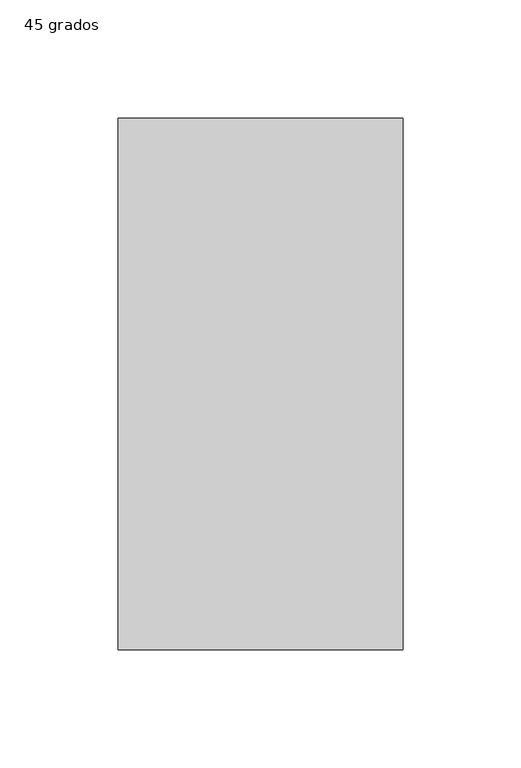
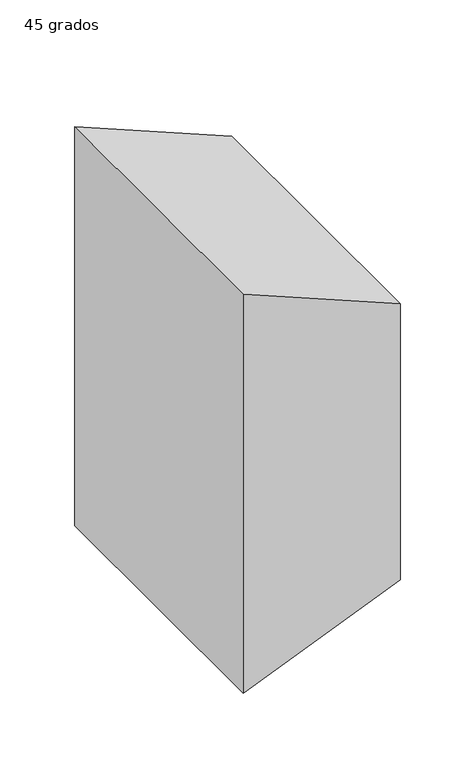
"""IFC4 building model written with IfcOpenShell, lengths in millimetres: duct fitting geometry, M_Transición rectangular - Ángulo : 45 grados."""

import ifcopenshell
import ifcopenshell.guid

model = None  # the IFC model being written
_history = None  # IfcOwnerHistory: only IFC2X3 demands one
_inside = {}  # id of a spatial element -> (the spatial element, [elements in it])
_under = {}  # id of a project, library or spatial element -> (it, [spatial elements below it])
_declared = {}  # id of a project -> (the project, [libraries it declares])
_typed = {}  # id of a type object -> (the type object, [elements of that type])
_made_of = {}  # id of a material, layer set ... -> (it, [elements and type objects made of it])


def new_model(schema):
    """Start an empty IFC model of exactly this schema.

    Asked for "IFC4X3", IfcOpenShell would pick the latest addendum, in which some entities
    have other attributes; the version numbers below select the first issue.
    IFC2X3 requires an IfcOwnerHistory on every rooted entity: one is made here for all.
    """
    global model, _history
    if schema == "IFC4X3":
        model = ifcopenshell.file(schema_version=(4, 3, 0, 0))
    else:
        model = ifcopenshell.file(schema=schema)
    _inside.clear()
    _under.clear()
    _declared.clear()
    _typed.clear()
    _made_of.clear()
    _history = None
    if model.schema == "IFC2X3":
        org = make("IfcOrganization", Name="unknown")
        user = make(
            "IfcPersonAndOrganization",
            ThePerson=make("IfcPerson", FamilyName="unknown"),
            TheOrganization=org,
        )
        app = make(
            "IfcApplication",
            ApplicationDeveloper=org,
            Version="unknown",
            ApplicationFullName="unknown",
            ApplicationIdentifier="unknown",
        )
        _history = make(
            "IfcOwnerHistory",
            OwningUser=user,
            OwningApplication=app,
            ChangeAction="ADDED",
            CreationDate=0,
        )
    return model


def make(cls, **values):
    """One entity of the class cls with the attributes given. An attribute that is None is left unset."""
    return model.create_entity(
        cls, **{name: value for name, value in values.items() if value is not None}
    )


def rooted(cls, **values):
    """An entity with a GlobalId (a new one), such as an element, a storey or a relation."""
    return make(cls, GlobalId=ifcopenshell.guid.new(), OwnerHistory=_history, **values)


def si_unit(unit_type, name, prefix=None):
    """IfcSIUnit, for example si_unit("LENGTHUNIT", "METRE", prefix="MILLI")."""
    return make("IfcSIUnit", UnitType=unit_type, Prefix=prefix, Name=name)


def assignment(units):
    """IfcUnitAssignment: the units of a project."""
    return None if units is None else make("IfcUnitAssignment", Units=units)


def point(xyz):
    """IfcCartesianPoint."""
    return None if xyz is None else make("IfcCartesianPoint", Coordinates=xyz)


def direction(xyz):
    """IfcDirection."""
    return None if xyz is None else make("IfcDirection", DirectionRatios=xyz)


def frame(location, z_axis=None, x_axis=None):
    """IfcAxis2Placement3D, a coordinate frame: its origin and axes. An axis left out is left unset."""
    return make(
        "IfcAxis2Placement3D",
        Location=point(location),
        Axis=direction(z_axis),
        RefDirection=direction(x_axis),
    )


def origin():
    """The frame at (0, 0, 0) with its axes left unset."""
    return frame((0.0, 0.0, 0.0))


def place(relative_to, where):
    """IfcLocalPlacement: puts the frame where relative to a parent placement (None: the world)."""
    return make(
        "IfcLocalPlacement", PlacementRelTo=relative_to, RelativePlacement=where
    )


def context(
    kind, dimensions, precision=None, world=None, true_north=None, identifier=None
):
    """IfcGeometricRepresentationContext, for example the 3D "Model" context."""
    return make(
        "IfcGeometricRepresentationContext",
        ContextIdentifier=identifier,
        ContextType=kind,
        CoordinateSpaceDimension=dimensions,
        Precision=precision,
        WorldCoordinateSystem=world,
        TrueNorth=true_north,
    )


def project(units=None, contexts=None):
    """IfcProject with its units and contexts."""
    return rooted(
        "IfcProject",
        Name="project",
        RepresentationContexts=contexts,
        UnitsInContext=assignment(units),
    )


def spatial(cls, under=None, at=None, **own):
    """A site, building, storey or space (cls), placed at a placement, below another one or the project."""
    s = rooted(cls, ObjectPlacement=at, **own)
    if under is not None:
        _under.setdefault(under.id(), (under, []))[1].append(s)
    return s


def polyline(points):
    """IfcPolyline through the points."""
    return make("IfcPolyline", Points=[point(p) for p in points])


def outline(outer, holes=None, kind="AREA"):
    """IfcArbitraryClosedProfileDef: a profile drawn as a closed curve; with holes, ...WithVoids."""
    if holes is None:
        return make("IfcArbitraryClosedProfileDef", ProfileType=kind, OuterCurve=outer)
    return make(
        "IfcArbitraryProfileDefWithVoids",
        ProfileType=kind,
        OuterCurve=outer,
        InnerCurves=holes,
    )


def extrude(swept, where, along, depth):
    """IfcExtrudedAreaSolid: the profile swept, set in the frame where, extruded along a direction by depth."""
    return make(
        "IfcExtrudedAreaSolid",
        SweptArea=swept,
        Position=where,
        ExtrudedDirection=direction(along),
        Depth=depth,
    )


def shape(context_of_items, identifier, shape_type, items):
    """IfcShapeRepresentation: the items that make up one representation, for example the "Body"."""
    return make(
        "IfcShapeRepresentation",
        ContextOfItems=context_of_items,
        RepresentationIdentifier=identifier,
        RepresentationType=shape_type,
        Items=items,
    )


def source(mapping_origin, context_of_items, identifier, shape_type, items):
    """IfcRepresentationMap: a shape defined once, which mapped items show again and again."""
    return make(
        "IfcRepresentationMap",
        MappingOrigin=mapping_origin,
        MappedRepresentation=shape(context_of_items, identifier, shape_type, items),
    )


def transform(
    local_origin,
    x_axis=None,
    y_axis=None,
    z_axis=None,
    scale=None,
    scale2=None,
    scale3=None,
    uniform=True,
):
    """IfcCartesianTransformationOperator3D, or its non-uniform kind. x_axis, y_axis, z_axis: its Axis1, 2, 3."""
    if uniform:
        return make(
            "IfcCartesianTransformationOperator3D",
            Axis1=direction(x_axis),
            Axis2=direction(y_axis),
            LocalOrigin=point(local_origin),
            Scale=scale,
            Axis3=direction(z_axis),
        )
    return make(
        "IfcCartesianTransformationOperator3DnonUniform",
        Axis1=direction(x_axis),
        Axis2=direction(y_axis),
        LocalOrigin=point(local_origin),
        Scale=scale,
        Axis3=direction(z_axis),
        Scale2=scale2,
        Scale3=scale3,
    )


def mapped(mapping_source, mapping_target):
    """IfcMappedItem: shows the shape of a source again, moved by a transform."""
    return make(
        "IfcMappedItem", MappingSource=mapping_source, MappingTarget=mapping_target
    )


def made_of(thing, what):
    """Note that an element or type object is made of a material, layer set ...; save() writes the relation."""
    if what is not None:
        _made_of.setdefault(what.id(), (what, []))[1].append(thing)
    return thing


def element(
    cls,
    number,
    at=None,
    inside=None,
    cuts=None,
    type_object=None,
    material=None,
    context=None,
    identifier="Body",
    shape_type=None,
    held_by="IfcProductDefinitionShape",
    body=None,
    shapes=None,
    **own,
):
    """One element of the class cls, such as IfcWall. Its Tag is "e" and its number.

    at: its placement. inside: the storey or other place that contains it. cuts: it is an
    opening in that element (IfcRelVoidsElement). A single representation is given by context,
    identifier, shape_type and body (its items); several are given by shapes. held_by: the class
    of the entity that holds the representations. save() writes the other relations.
    """
    e = rooted(cls, Tag="e%d" % number, ObjectPlacement=at, **own)
    if body is not None:
        shapes = [shape(context, identifier, shape_type, body)]
    if shapes is not None:
        e.Representation = make(held_by, Representations=shapes)
    if inside is not None:
        _inside.setdefault(inside.id(), (inside, []))[1].append(e)
    if cuts is not None:
        rooted(
            "IfcRelVoidsElement", RelatingBuildingElement=cuts, RelatedOpeningElement=e
        )
    if type_object is not None:
        _typed.setdefault(type_object.id(), (type_object, []))[1].append(e)
    return made_of(e, material)


def aggregate(whole, parts):
    """IfcRelAggregates: a whole, such as a stair, and the parts it consists of."""
    return rooted("IfcRelAggregates", RelatingObject=whole, RelatedObjects=parts)


def save(model, path):
    """Write the relations noted so far, then the file.

    IfcRelAggregates (storeys below a building ...), IfcRelContainedInSpatialStructure (elements
    in a storey), IfcRelDefinesByType, IfcRelAssociatesMaterial and IfcRelDeclares: one each for
    every whole, place, type object, material and project.
    """
    for whole, parts in _under.values():
        aggregate(whole, parts)
    for where, things in _inside.values():
        rooted(
            "IfcRelContainedInSpatialStructure",
            RelatedElements=things,
            RelatingStructure=where,
        )
    for kind, things in _typed.values():
        rooted("IfcRelDefinesByType", RelatedObjects=things, RelatingType=kind)
    for what, things in _made_of.values():
        rooted("IfcRelAssociatesMaterial", RelatedObjects=things, RelatingMaterial=what)
    for by, libraries in _declared.values():
        rooted("IfcRelDeclares", RelatingContext=by, RelatedDefinitions=libraries)
    model.write(path)


def duct_fitting_45_grados_1f0bbba1(model_context):
    return source(origin(), model_context, "Body", "SweptSolid", [
        extrude(outline(polyline([(162.5, 0.0), (-162.5, 0.0), (-112.5, 120.7106781), (112.5, 120.7106781), (162.5, 0.0)])), frame((0.0, -112.5, 0.0), z_axis=(0.0, 1.0, 0.0), x_axis=(0.0, 0.0, 1.0)), (0.0, 0.0, 1.0), 225.0),
    ])


if __name__ == "__main__":
    model = new_model("IFC4")
    model_context = context("Model", 3, world=origin())
    ifc_project = project(units=[si_unit("LENGTHUNIT", "METRE", prefix="MILLI")], contexts=[model_context])
    site = spatial("IfcSite", under=ifc_project)
    building = spatial("IfcBuilding", under=site)
    placement = place(None, origin())
    duct_fitting_45_grados_shape = duct_fitting_45_grados_1f0bbba1(model_context)
    element("IfcDuctFitting", 1, ObjectType="M_Transición rectangular - Ángulo : 45 grados", at=placement, inside=building, context=model_context, shape_type="MappedRepresentation", body=[
        mapped(duct_fitting_45_grados_shape, transform((0.0, 0.0, 0.0), x_axis=(1.0, 0.0, 0.0), y_axis=(0.0, 1.0, 0.0), z_axis=(0.0, 0.0, 1.0))),
    ])
    save(model, "model.ifc")
